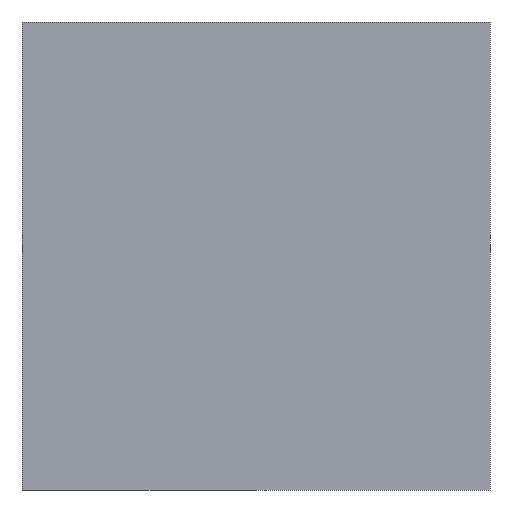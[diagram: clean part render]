
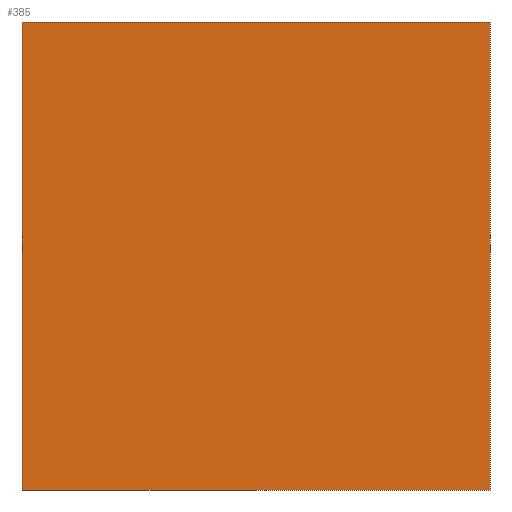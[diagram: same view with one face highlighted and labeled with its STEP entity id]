
A CAD part, left-side view. The second image highlights one B-rep face of the part: STEP entity #385.
In plain terms, the highlighted planar face has unit normal (-1, 0, 0).
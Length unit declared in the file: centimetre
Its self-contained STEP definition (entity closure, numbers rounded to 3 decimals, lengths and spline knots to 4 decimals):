
#6 = VERTEX_POINT ( 'NONE', #278 ) ;
#7 = LINE ( 'NONE', #178, #41 ) ;
#13 = ORIENTED_EDGE ( 'NONE', *, *, #161, .T. ) ;
#41 = VECTOR ( 'NONE', #252, 100. ) ;
#61 = ORIENTED_EDGE ( 'NONE', *, *, #407, .F. ) ;
#74 = DIRECTION ( 'NONE',  ( 0., -1., 0. ) ) ;
#98 = DIRECTION ( 'NONE',  ( 0., 0., -1. ) ) ;
#132 = VECTOR ( 'NONE', #74, 100. ) ;
#135 = DIRECTION ( 'NONE',  ( 1., 0., 0. ) ) ;
#147 = CARTESIAN_POINT ( 'NONE',  ( 0., 0., 0. ) ) ;
#161 = EDGE_CURVE ( 'NONE', #261, #258, #492, .T. ) ;
#176 = LINE ( 'NONE', #464, #395 ) ;
#178 = CARTESIAN_POINT ( 'NONE',  ( 0., 1000., 1000. ) ) ;
#182 = DIRECTION ( 'NONE',  ( 0., 0., -1. ) ) ;
#206 = AXIS2_PLACEMENT_3D ( 'NONE', #302, #135, #182 ) ;
#222 = CARTESIAN_POINT ( 'NONE',  ( 0., 1000., 1000. ) ) ;
#252 = DIRECTION ( 'NONE',  ( 0., 0., -1. ) ) ;
#258 = VERTEX_POINT ( 'NONE', #147 ) ;
#259 = PLANE ( 'NONE',  #206 ) ;
#261 = VERTEX_POINT ( 'NONE', #472 ) ;
#278 = CARTESIAN_POINT ( 'NONE',  ( 0., 1000., 1000. ) ) ;
#284 = CARTESIAN_POINT ( 'NONE',  ( 0., 1000., 0. ) ) ;
#302 = CARTESIAN_POINT ( 'NONE',  ( 0., 1000., 1000. ) ) ;
#342 = EDGE_LOOP ( 'NONE', ( #13, #475, #61, #435 ) ) ;
#378 = LINE ( 'NONE', #222, #530 ) ;
#385 = ADVANCED_FACE ( 'NONE', ( #502 ), #259, .F. ) ;
#395 = VECTOR ( 'NONE', #98, 100. ) ;
#407 = EDGE_CURVE ( 'NONE', #6, #520, #378, .T. ) ;
#416 = DIRECTION ( 'NONE',  ( 0., -1., 0. ) ) ;
#435 = ORIENTED_EDGE ( 'NONE', *, *, #446, .T. ) ;
#446 = EDGE_CURVE ( 'NONE', #6, #261, #7, .T. ) ;
#455 = CARTESIAN_POINT ( 'NONE',  ( 0., 0., 1000. ) ) ;
#464 = CARTESIAN_POINT ( 'NONE',  ( 0., 0., 1000. ) ) ;
#472 = CARTESIAN_POINT ( 'NONE',  ( 0., 1000., 0. ) ) ;
#475 = ORIENTED_EDGE ( 'NONE', *, *, #478, .F. ) ;
#478 = EDGE_CURVE ( 'NONE', #520, #258, #176, .T. ) ;
#492 = LINE ( 'NONE', #284, #132 ) ;
#502 = FACE_OUTER_BOUND ( 'NONE', #342, .T. ) ;
#520 = VERTEX_POINT ( 'NONE', #455 ) ;
#530 = VECTOR ( 'NONE', #416, 100. ) ;
